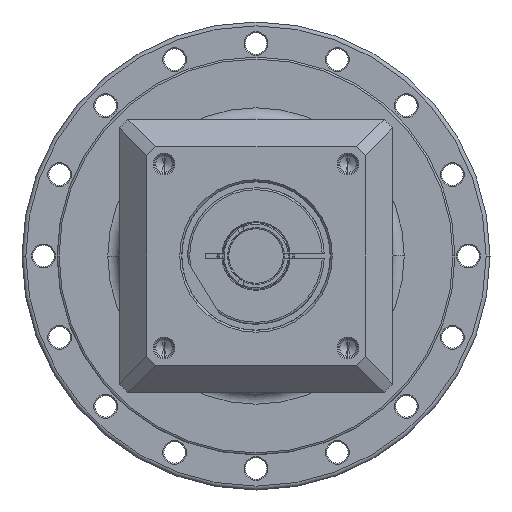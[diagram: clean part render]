
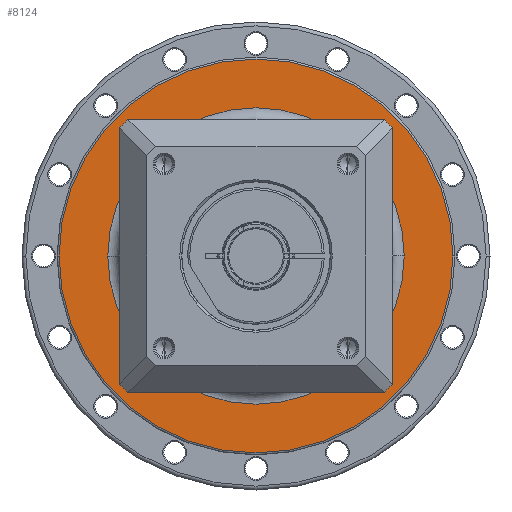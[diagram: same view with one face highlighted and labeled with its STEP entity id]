
A CAD part, left-side view. The second image highlights one B-rep face of the part: STEP entity #8124.
In plain terms, the highlighted planar face has unit normal (-1, 0, 0) as drawn and (1, 0, 0) by its records, which use the part's own axes.
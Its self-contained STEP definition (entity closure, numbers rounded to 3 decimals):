
#7721=CARTESIAN_POINT('',(-33.5,0.,0.));
#7722=DIRECTION('',(-1.,0.,0.));
#7723=DIRECTION('',(0.,-1.,0.));
#7724=AXIS2_PLACEMENT_3D('',#7721,#7722,#7723);
#7726=CARTESIAN_POINT('',(-33.5,0.,0.));
#7727=DIRECTION('',(-1.,0.,0.));
#7728=DIRECTION('',(0.,1.,0.));
#7729=AXIS2_PLACEMENT_3D('',#7726,#7727,#7728);
#7731=CARTESIAN_POINT('',(-33.5,0.,0.));
#7732=DIRECTION('',(-1.,0.,0.));
#7733=DIRECTION('',(0.,-1.,0.));
#7734=AXIS2_PLACEMENT_3D('',#7731,#7732,#7733);
#7736=CARTESIAN_POINT('',(-33.5,0.,0.));
#7737=DIRECTION('',(-1.,0.,0.));
#7738=DIRECTION('',(0.,1.,0.));
#7739=AXIS2_PLACEMENT_3D('',#7736,#7737,#7738);
#7909=CARTESIAN_POINT('',(-33.5,-50.5,0.));
#7910=CARTESIAN_POINT('',(-33.5,50.5,0.));
#7911=VERTEX_POINT('',#7909);
#7912=VERTEX_POINT('',#7910);
#7929=CARTESIAN_POINT('',(-33.5,-38.,0.));
#7930=CARTESIAN_POINT('',(-33.5,38.,0.));
#7931=VERTEX_POINT('',#7929);
#7932=VERTEX_POINT('',#7930);
#8109=CARTESIAN_POINT('',(-33.5,0.,0.));
#8110=DIRECTION('',(1.,0.,0.));
#8111=DIRECTION('',(0.,-1.,0.));
#8112=AXIS2_PLACEMENT_3D('',#8109,#8110,#8111);
#8113=PLANE('',#8112);
#8115=ORIENTED_EDGE('',*,*,#8114,.T.);
#8117=ORIENTED_EDGE('',*,*,#8116,.T.);
#8118=EDGE_LOOP('',(#8115,#8117));
#8119=FACE_OUTER_BOUND('',#8118,.F.);
#8120=ORIENTED_EDGE('',*,*,#8103,.F.);
#8121=ORIENTED_EDGE('',*,*,#8089,.F.);
#8122=EDGE_LOOP('',(#8120,#8121));
#8123=FACE_BOUND('',#8122,.F.);
#8124=ADVANCED_FACE('',(#8119,#8123),#8113,.T.);
#7725=CIRCLE('',#7724,38.);
#7730=CIRCLE('',#7729,38.);
#7735=CIRCLE('',#7734,50.5);
#7740=CIRCLE('',#7739,50.5);
#8089=EDGE_CURVE('',#7932,#7931,#7730,.T.);
#8103=EDGE_CURVE('',#7931,#7932,#7725,.T.);
#8114=EDGE_CURVE('',#7911,#7912,#7735,.T.);
#8116=EDGE_CURVE('',#7912,#7911,#7740,.T.);
